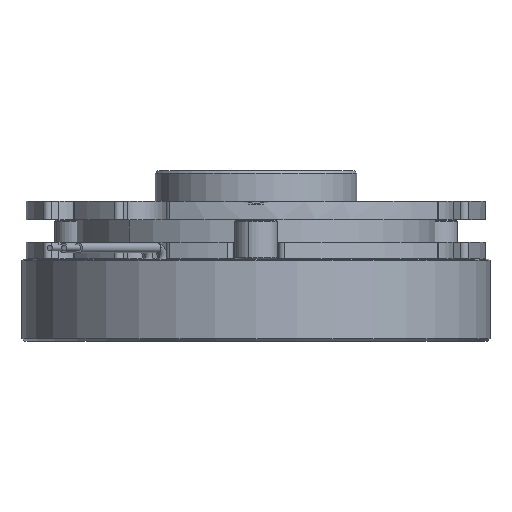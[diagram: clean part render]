
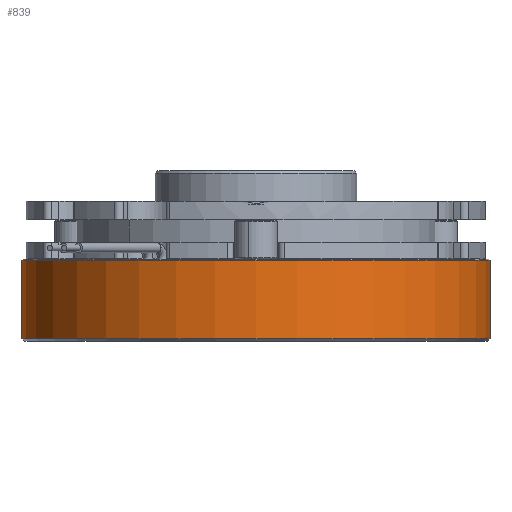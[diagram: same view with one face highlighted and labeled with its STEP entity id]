
A CAD part, front view. The second image highlights one B-rep face of the part: STEP entity #839.
In plain terms, the highlighted cylindrical face has radius 41.75 mm (diameter 83.5 mm), a partial arc.
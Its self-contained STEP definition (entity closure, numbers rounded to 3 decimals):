
#11 = FACE_OUTER_BOUND ( 'NONE', #7038, .T. ) ;
#276 = CYLINDRICAL_SURFACE ( 'NONE', #4878, 41.75 ) ;
#839 = ADVANCED_FACE ( 'NONE', ( #11 ), #276, .T. ) ;
#3251 = CARTESIAN_POINT ( 'NONE',  ( 0., 0., 14.5 ) ) ;
#3252 = DIRECTION ( 'NONE',  ( 0., 0., -1. ) ) ;
#3253 = DIRECTION ( 'NONE',  ( 1., 0., 0. ) ) ;
#3291 = CARTESIAN_POINT ( 'NONE',  ( 0., 0., 0.5 ) ) ;
#3292 = DIRECTION ( 'NONE',  ( 0., 0., 1. ) ) ;
#3293 = DIRECTION ( 'NONE',  ( 1., 0., 0. ) ) ;
#3692 = CARTESIAN_POINT ( 'NONE',  ( -41.75, 0., 14.5 ) ) ;
#4878 = AXIS2_PLACEMENT_3D ( 'NONE', #7561, #7544, #7578 ) ;
#5430 = EDGE_CURVE ( 'NONE', #7470, #7336, #12334, .T. ) ;
#5432 = EDGE_CURVE ( 'NONE', #7334, #7376, #12335, .T. ) ;
#7038 = EDGE_LOOP ( 'NONE', ( #7805, #7804, #7803, #7802 ) ) ;
#7334 = VERTEX_POINT ( 'NONE', #11058 ) ;
#7336 = VERTEX_POINT ( 'NONE', #11059 ) ;
#7376 = VERTEX_POINT ( 'NONE', #11084 ) ;
#7470 = VERTEX_POINT ( 'NONE', #3692 ) ;
#7544 = DIRECTION ( 'NONE',  ( 0., 0., -1. ) ) ;
#7561 = CARTESIAN_POINT ( 'NONE',  ( 0., 0., 14.7 ) ) ;
#7578 = DIRECTION ( 'NONE',  ( -1., 0., 0. ) ) ;
#7802 = ORIENTED_EDGE ( 'NONE', *, *, #9486, .T. ) ;
#7803 = ORIENTED_EDGE ( 'NONE', *, *, #5430, .T. ) ;
#7804 = ORIENTED_EDGE ( 'NONE', *, *, #9473, .T. ) ;
#7805 = ORIENTED_EDGE ( 'NONE', *, *, #5432, .F. ) ;
#8698 = CIRCLE ( 'NONE', #12993, 41.75 ) ;
#8710 = CIRCLE ( 'NONE', #13005, 41.75 ) ;
#9473 = EDGE_CURVE ( 'NONE', #7334, #7470, #8698, .T. ) ;
#9486 = EDGE_CURVE ( 'NONE', #7336, #7376, #8710, .T. ) ;
#11058 = CARTESIAN_POINT ( 'NONE',  ( 41.75, 0., 14.5 ) ) ;
#11059 = CARTESIAN_POINT ( 'NONE',  ( -41.75, 0., 0.5 ) ) ;
#11084 = CARTESIAN_POINT ( 'NONE',  ( 41.75, 0., 0.5 ) ) ;
#11792 = DIRECTION ( 'NONE',  ( 0., 0., -1. ) ) ;
#11793 = CARTESIAN_POINT ( 'NONE',  ( -41.75, 0., 14.7 ) ) ;
#11801 = DIRECTION ( 'NONE',  ( 0., 0., -1. ) ) ;
#11803 = CARTESIAN_POINT ( 'NONE',  ( 41.75, 0., 14.7 ) ) ;
#12334 = LINE ( 'NONE', #11793, #12336 ) ;
#12335 = LINE ( 'NONE', #11803, #12339 ) ;
#12336 = VECTOR ( 'NONE', #11792, 1000. ) ;
#12339 = VECTOR ( 'NONE', #11801, 1000. ) ;
#12993 = AXIS2_PLACEMENT_3D ( 'NONE', #3251, #3252, #3253 ) ;
#13005 = AXIS2_PLACEMENT_3D ( 'NONE', #3291, #3292, #3293 ) ;
